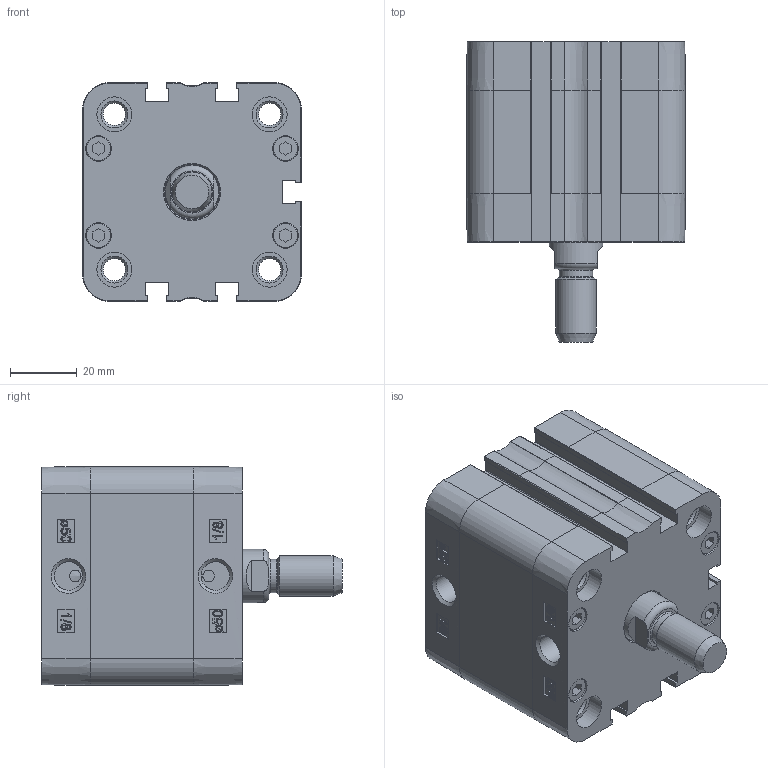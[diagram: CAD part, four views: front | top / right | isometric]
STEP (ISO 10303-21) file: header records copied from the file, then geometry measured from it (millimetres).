
FILE_DESCRIPTION((''),'2;1');
FILE_NAME('T:\Archivio Inventor\- CATALOGHI 2012\SERIE P - NUOVA\PDM\PDM050\PDM050.---.GS.M\PDM050.015.GS.M.stp','2013-02-01T10:53:30',('Administrator'),(''),'Autodesk Inventor 2012','Autodesk Inventor 2012','');
FILE_SCHEMA(('CONFIG_CONTROL_DESIGN'));
Length unit declared in the file: millimetre
Products named in the file (1): PDM050.015.GS.M
Bounding box: 65.5 x 90 x 65.5 mm (x, y, z)
Volume: 152042 mm3; surface area: 58347.5 mm2
Topology: 2 solids, 6 shells, 780 faces, 1860 edges, 1167 vertices
Faces by surface type: plane 335, bspline 196, cylinder 131, torus 56, cone 46, sphere 16
Full cylindrical faces by diameter (mm): 3.5 x2, 5.2 x4, 6.647 x8, 7.5 x8, 7.7 x8, 8.047 x4, 8.566 x2, 10 x1, 10.5 x8, 12 x2, 16 x1, 16.5 x1, 50 x1, 52.4 x1, 52.6 x1
Entity records: 25589 total; most frequent: CARTESIAN_POINT 8474, ORIENTED_EDGE 3488, DIRECTION 2866, EDGE_CURVE 1744, VERTEX_POINT 1148, AXIS2_PLACEMENT_3D 978, EDGE_LOOP 962, VECTOR 910
